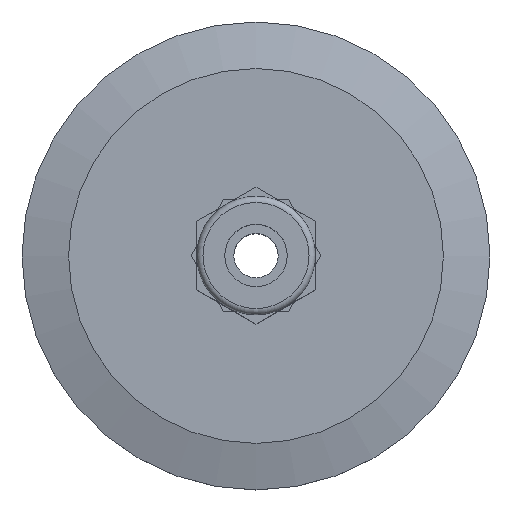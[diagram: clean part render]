
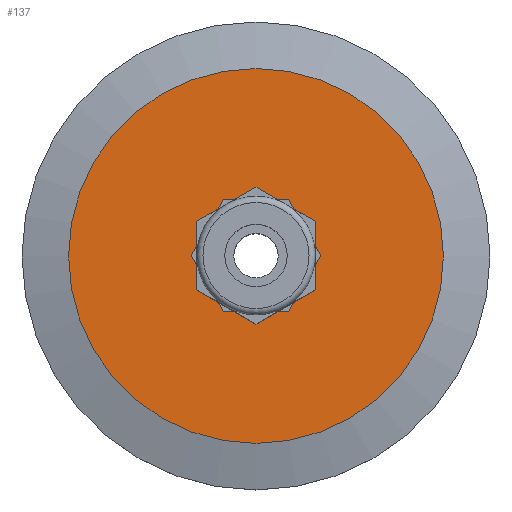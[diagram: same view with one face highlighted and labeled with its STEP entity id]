
A CAD part, top view. The second image highlights one B-rep face of the part: STEP entity #137.
In plain terms, the highlighted planar face has unit normal (0, 0, 1).
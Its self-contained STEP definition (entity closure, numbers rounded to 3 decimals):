
#137 = ADVANCED_FACE( '', ( #276, #277 ), #278, .F. );
#276 = FACE_BOUND( '', #428, .T. );
#277 = FACE_OUTER_BOUND( '', #429, .T. );
#278 = PLANE( '', #430 );
#428 = EDGE_LOOP( '', ( #626 ) );
#429 = EDGE_LOOP( '', ( #627 ) );
#430 = AXIS2_PLACEMENT_3D( '', #628, #629, #630 );
#626 = ORIENTED_EDGE( '', *, *, #815, .F. );
#627 = ORIENTED_EDGE( '', *, *, #806, .T. );
#628 = CARTESIAN_POINT( '', ( 30.036, 0., 5. ) );
#629 = DIRECTION( '', ( 0., 0., -1. ) );
#630 = DIRECTION( '', ( -1., 0., 0. ) );
#806 = EDGE_CURVE( '', #915, #915, #916, .T. );
#815 = EDGE_CURVE( '', #930, #930, #931, .T. );
#915 = VERTEX_POINT( '', #1072 );
#916 = CIRCLE( '', #1073, 30.036 );
#930 = VERTEX_POINT( '', #1087 );
#931 = CIRCLE( '', #1088, 6.4 );
#1072 = CARTESIAN_POINT( '', ( 30.036, 0., 5. ) );
#1073 = AXIS2_PLACEMENT_3D( '', #1264, #1265, #1266 );
#1087 = CARTESIAN_POINT( '', ( 6.4, 0., 5. ) );
#1088 = AXIS2_PLACEMENT_3D( '', #1282, #1283, #1284 );
#1264 = CARTESIAN_POINT( '', ( 0., 0., 5. ) );
#1265 = DIRECTION( '', ( 0., 0., 1. ) );
#1266 = DIRECTION( '', ( 1., 0., 0. ) );
#1282 = CARTESIAN_POINT( '', ( 0., 0., 5. ) );
#1283 = DIRECTION( '', ( 0., 0., 1. ) );
#1284 = DIRECTION( '', ( 1., 0., 0. ) );
